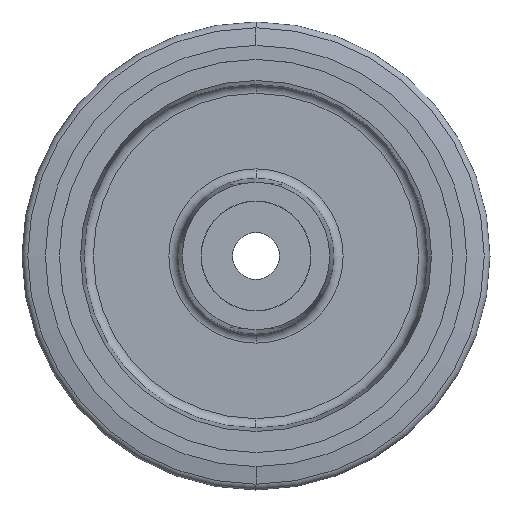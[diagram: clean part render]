
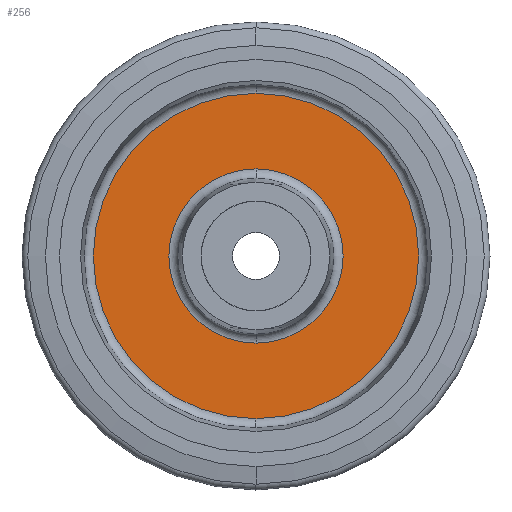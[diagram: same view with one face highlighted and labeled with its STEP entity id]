
A CAD part, left-side view. The second image highlights one B-rep face of the part: STEP entity #256.
In plain terms, the highlighted planar face has unit normal (-1, 0, 0).
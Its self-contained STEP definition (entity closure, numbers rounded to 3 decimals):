
#55 = AXIS2_PLACEMENT_3D ( 'NONE', #1040, #1684, #1213 ) ;
#121 = DIRECTION ( 'NONE',  ( -1., 0., 0. ) ) ;
#256 = ADVANCED_FACE ( 'NONE', ( #453, #2037 ), #2009, .F. ) ;
#330 = CARTESIAN_POINT ( 'NONE',  ( -4., 0., 69.497 ) ) ;
#436 = DIRECTION ( 'NONE',  ( 1., 0., 0. ) ) ;
#453 = FACE_BOUND ( 'NONE', #1576, .T. ) ;
#460 = CARTESIAN_POINT ( 'NONE',  ( -4., 0., 0. ) ) ;
#594 = CIRCLE ( 'NONE', #1285, 69.497 ) ;
#595 = CIRCLE ( 'NONE', #55, 37.221 ) ;
#616 = CARTESIAN_POINT ( 'NONE',  ( -4., 0., 0. ) ) ;
#617 = AXIS2_PLACEMENT_3D ( 'NONE', #1704, #436, #1088 ) ;
#659 = ORIENTED_EDGE ( 'NONE', *, *, #1979, .F. ) ;
#758 = EDGE_CURVE ( 'NONE', #910, #1849, #594, .T. ) ;
#770 = DIRECTION ( 'NONE',  ( -1., 0., 0. ) ) ;
#821 = EDGE_CURVE ( 'NONE', #1849, #910, #1119, .T. ) ;
#847 = ORIENTED_EDGE ( 'NONE', *, *, #758, .T. ) ;
#852 = CARTESIAN_POINT ( 'NONE',  ( -4., 0., -37.221 ) ) ;
#854 = DIRECTION ( 'NONE',  ( 0., 0., 1. ) ) ;
#895 = CARTESIAN_POINT ( 'NONE',  ( -4., 0., -69.497 ) ) ;
#910 = VERTEX_POINT ( 'NONE', #895 ) ;
#925 = CIRCLE ( 'NONE', #1896, 37.221 ) ;
#1040 = CARTESIAN_POINT ( 'NONE',  ( -4., 0., 0. ) ) ;
#1042 = EDGE_LOOP ( 'NONE', ( #1176, #847 ) ) ;
#1088 = DIRECTION ( 'NONE',  ( 0., 0., -1. ) ) ;
#1119 = CIRCLE ( 'NONE', #1657, 69.497 ) ;
#1176 = ORIENTED_EDGE ( 'NONE', *, *, #821, .T. ) ;
#1213 = DIRECTION ( 'NONE',  ( 0., 0., 1. ) ) ;
#1285 = AXIS2_PLACEMENT_3D ( 'NONE', #616, #121, #1445 ) ;
#1346 = VERTEX_POINT ( 'NONE', #1943 ) ;
#1433 = VERTEX_POINT ( 'NONE', #852 ) ;
#1445 = DIRECTION ( 'NONE',  ( 0., 0., 1. ) ) ;
#1576 = EDGE_LOOP ( 'NONE', ( #1765, #659 ) ) ;
#1657 = AXIS2_PLACEMENT_3D ( 'NONE', #460, #770, #1884 ) ;
#1684 = DIRECTION ( 'NONE',  ( -1., 0., 0. ) ) ;
#1698 = DIRECTION ( 'NONE',  ( -1., 0., 0. ) ) ;
#1704 = CARTESIAN_POINT ( 'NONE',  ( -4., 69.497, 0. ) ) ;
#1765 = ORIENTED_EDGE ( 'NONE', *, *, #1916, .F. ) ;
#1849 = VERTEX_POINT ( 'NONE', #330 ) ;
#1884 = DIRECTION ( 'NONE',  ( 0., 0., 1. ) ) ;
#1896 = AXIS2_PLACEMENT_3D ( 'NONE', #2001, #1698, #854 ) ;
#1916 = EDGE_CURVE ( 'NONE', #1346, #1433, #925, .T. ) ;
#1943 = CARTESIAN_POINT ( 'NONE',  ( -4., 0., 37.221 ) ) ;
#1979 = EDGE_CURVE ( 'NONE', #1433, #1346, #595, .T. ) ;
#2001 = CARTESIAN_POINT ( 'NONE',  ( -4., 0., 0. ) ) ;
#2009 = PLANE ( 'NONE',  #617 ) ;
#2037 = FACE_OUTER_BOUND ( 'NONE', #1042, .T. ) ;
